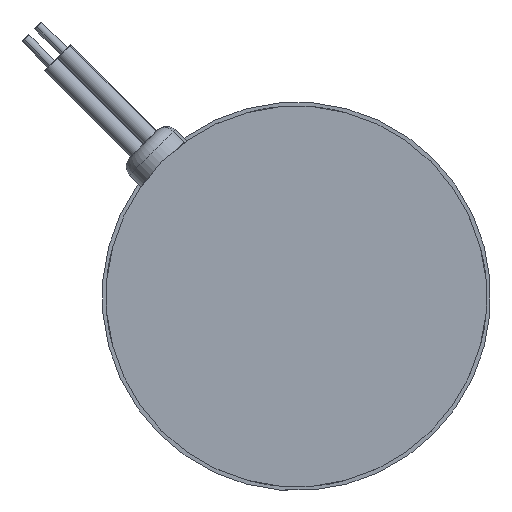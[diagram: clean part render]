
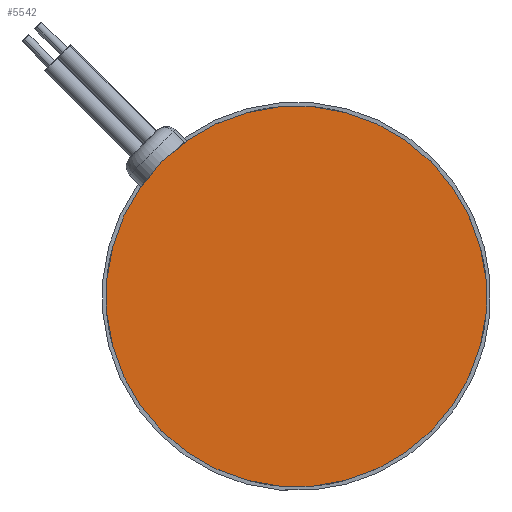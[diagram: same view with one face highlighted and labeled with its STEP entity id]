
A CAD part, left-side view. The second image highlights one B-rep face of the part: STEP entity #5542.
In plain terms, the highlighted planar face has unit normal (-1, 0, 0).
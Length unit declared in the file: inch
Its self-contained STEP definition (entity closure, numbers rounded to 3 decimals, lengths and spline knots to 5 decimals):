
#767 = ORIENTED_EDGE ( 'NONE', *, *, #5997, .F. ) ;
#773 = CARTESIAN_POINT ( 'NONE',  ( -0.32797, 2.40744, 5.7787 ) ) ;
#910 = CARTESIAN_POINT ( 'NONE',  ( -0.32797, 3.51222, 4.67391 ) ) ;
#1934 = VERTEX_POINT ( 'NONE', #773 ) ;
#3016 = PLANE ( 'NONE',  #3286 ) ;
#3072 = CIRCLE ( 'NONE', #7706, 1.5624 ) ;
#3183 = DIRECTION ( 'NONE',  ( 1., 0., 0. ) ) ;
#3286 = AXIS2_PLACEMENT_3D ( 'NONE', #8489, #3971, #6282 ) ;
#3436 = EDGE_CURVE ( 'NONE', #1934, #7565, #3072, .T. ) ;
#3514 = FACE_OUTER_BOUND ( 'NONE', #5526, .T. ) ;
#3782 = ORIENTED_EDGE ( 'NONE', *, *, #3436, .F. ) ;
#3971 = DIRECTION ( 'NONE',  ( 1., 0., 0. ) ) ;
#4271 = CIRCLE ( 'NONE', #5204, 1.5624 ) ;
#4544 = CARTESIAN_POINT ( 'NONE',  ( -0.32797, 3.51222, 4.67391 ) ) ;
#4791 = DIRECTION ( 'NONE',  ( 0., -0.707, 0.707 ) ) ;
#5204 = AXIS2_PLACEMENT_3D ( 'NONE', #4544, #6897, #5321 ) ;
#5321 = DIRECTION ( 'NONE',  ( 0., -0.707, 0.707 ) ) ;
#5526 = EDGE_LOOP ( 'NONE', ( #767, #3782 ) ) ;
#5542 = ADVANCED_FACE ( 'NONE', ( #3514 ), #3016, .F. ) ;
#5997 = EDGE_CURVE ( 'NONE', #7565, #1934, #4271, .T. ) ;
#6282 = DIRECTION ( 'NONE',  ( 0., -0.707, 0.707 ) ) ;
#6897 = DIRECTION ( 'NONE',  ( 1., 0., 0. ) ) ;
#7424 = CARTESIAN_POINT ( 'NONE',  ( -0.32797, 4.61701, 3.56913 ) ) ;
#7565 = VERTEX_POINT ( 'NONE', #7424 ) ;
#7706 = AXIS2_PLACEMENT_3D ( 'NONE', #910, #3183, #4791 ) ;
#8489 = CARTESIAN_POINT ( 'NONE',  ( -0.32797, 3.51222, 4.67391 ) ) ;
